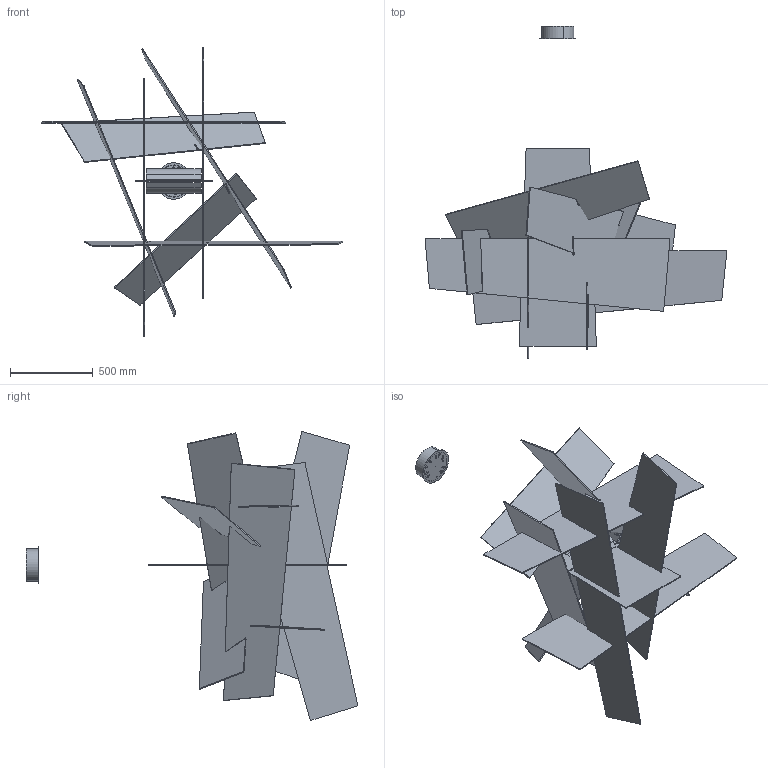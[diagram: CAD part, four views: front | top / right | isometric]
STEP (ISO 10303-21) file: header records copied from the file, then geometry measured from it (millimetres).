
FILE_DESCRIPTION (( 'STEP AP214' ), '1' );
FILE_NAME ('151_XL_S_LD_3D.STEP', '2021-05-20T10:06:36', ( '' ), ( '' ), 'SwSTEP 2.0', 'SolidWorks 2021', '' );
FILE_SCHEMA (( 'AUTOMOTIVE_DESIGN' ));
Length unit declared in the file: millimetre
Products named in the file (1): 151_XL_S_LD_3D
Bounding box: 1821.53 x 2002.18 x 1743.6 mm (x, y, z)
Volume: 26966352.5 mm3; surface area: 9641325.5 mm2
Topology: 13 solids, 13 shells, 387 faces, 1061 edges, 704 vertices
Faces by surface type: cylinder 208, plane 169, cone 6, torus 4
Entity records: 16912 total; most frequent: DIRECTION 2267, CARTESIAN_POINT 2153, ORIENTED_EDGE 2122, EDGE_CURVE 1061, AXIS2_PLACEMENT_3D 818, VERTEX_POINT 704, VECTOR 631, LINE 631
